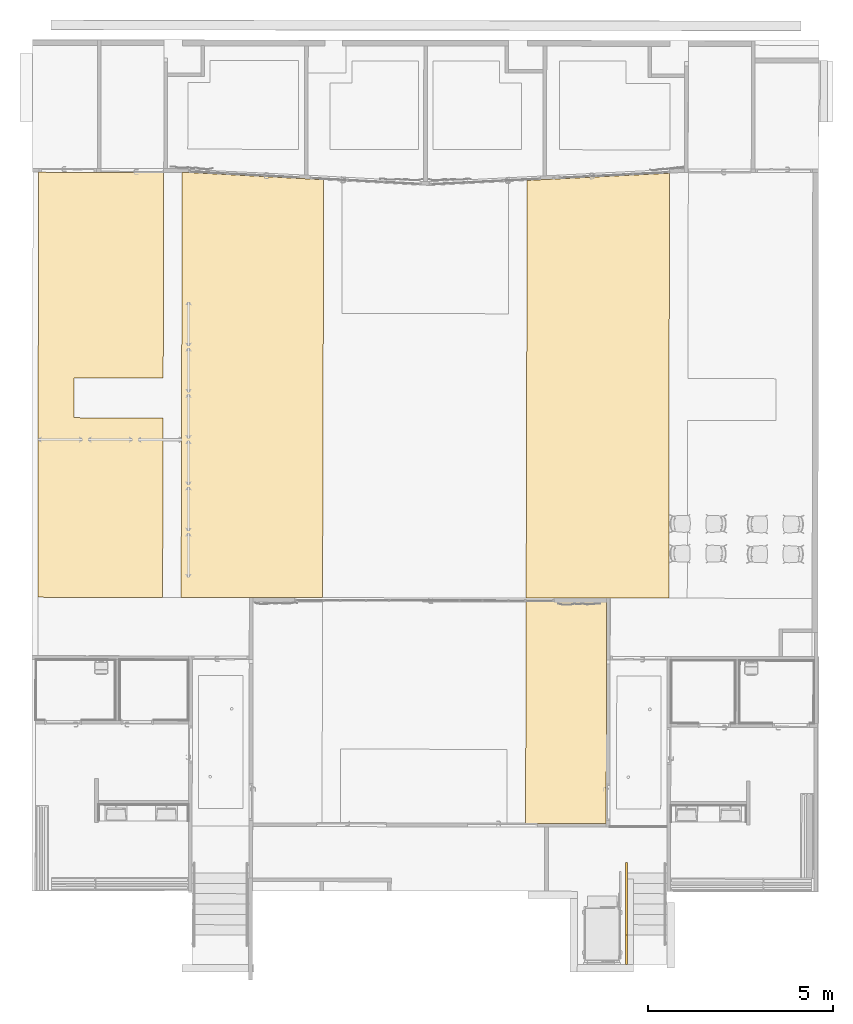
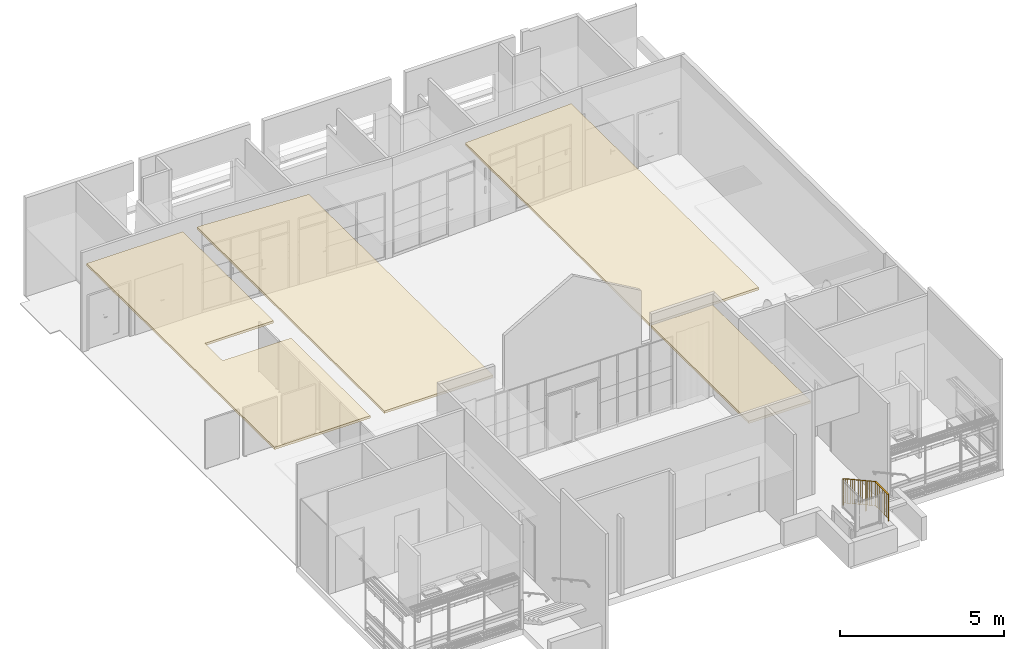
# One storey, part 33 of 43: 4 coverings, 1 railing, 1 element without a shape of its own.
"""IFC2X3 building model written with IfcOpenShell, lengths in metres."""

import ifcopenshell
import ifcopenshell.guid

model = None  # the IFC model being written
_history = None  # IfcOwnerHistory: only IFC2X3 demands one
_inside = {}  # id of a spatial element -> (the spatial element, [elements in it])
_under = {}  # id of a project, library or spatial element -> (it, [spatial elements below it])
_declared = {}  # id of a project -> (the project, [libraries it declares])
_typed = {}  # id of a type object -> (the type object, [elements of that type])
_made_of = {}  # id of a material, layer set ... -> (it, [elements and type objects made of it])


def new_model(schema):
    """Start an empty IFC model of exactly this schema.

    Asked for "IFC4X3", IfcOpenShell would pick the latest addendum, in which some entities
    have other attributes; the version numbers below select the first issue.
    IFC2X3 requires an IfcOwnerHistory on every rooted entity: one is made here for all.
    """
    global model, _history
    if schema == "IFC4X3":
        model = ifcopenshell.file(schema_version=(4, 3, 0, 0))
    else:
        model = ifcopenshell.file(schema=schema)
    _inside.clear()
    _under.clear()
    _declared.clear()
    _typed.clear()
    _made_of.clear()
    _history = None
    if model.schema == "IFC2X3":
        org = make("IfcOrganization", Name="unknown")
        user = make(
            "IfcPersonAndOrganization",
            ThePerson=make("IfcPerson", FamilyName="unknown"),
            TheOrganization=org,
        )
        app = make(
            "IfcApplication",
            ApplicationDeveloper=org,
            Version="unknown",
            ApplicationFullName="unknown",
            ApplicationIdentifier="unknown",
        )
        _history = make(
            "IfcOwnerHistory",
            OwningUser=user,
            OwningApplication=app,
            ChangeAction="ADDED",
            CreationDate=0,
        )
    return model


def make(cls, **values):
    """One entity of the class cls with the attributes given. An attribute that is None is left unset."""
    return model.create_entity(
        cls, **{name: value for name, value in values.items() if value is not None}
    )


def entity(cls, *values):
    """Any entity or typed value of the class cls, its attributes in the order of the schema. None: left unset."""
    e = model.create_entity(cls)
    for i, value in enumerate(values):
        if value is not None:
            e[i] = value
    return e


def rooted(cls, **values):
    """An entity with a GlobalId (a new one), such as an element, a storey or a relation."""
    return make(cls, GlobalId=ifcopenshell.guid.new(), OwnerHistory=_history, **values)


def si_unit(unit_type, name, prefix=None):
    """IfcSIUnit, for example si_unit("LENGTHUNIT", "METRE", prefix="MILLI")."""
    return make("IfcSIUnit", UnitType=unit_type, Prefix=prefix, Name=name)


def converted_unit(unit_type, name, factor, base, dimensions=None, offset=None):
    """IfcConversionBasedUnit, such as the inch: factor (a typed value) times the base unit."""
    return make(
        "IfcConversionBasedUnit"
        if offset is None
        else "IfcConversionBasedUnitWithOffset",
        ConversionOffset=offset,
        Dimensions=None
        if dimensions is None
        else entity("IfcDimensionalExponents", *dimensions),
        UnitType=unit_type,
        Name=name,
        ConversionFactor=make(
            "IfcMeasureWithUnit", ValueComponent=factor, UnitComponent=base
        ),
    )


def derived_unit(unit_type, elements):
    """IfcDerivedUnit: a product of units, each with its exponent."""
    return make(
        "IfcDerivedUnit",
        Elements=[
            make("IfcDerivedUnitElement", Unit=unit, Exponent=power)
            for unit, power in elements
        ],
        UnitType=unit_type,
    )


def assignment(units):
    """IfcUnitAssignment: the units of a project."""
    return None if units is None else make("IfcUnitAssignment", Units=units)


def point(xyz):
    """IfcCartesianPoint."""
    return None if xyz is None else make("IfcCartesianPoint", Coordinates=xyz)


def direction(xyz):
    """IfcDirection."""
    return None if xyz is None else make("IfcDirection", DirectionRatios=xyz)


def frame(location, z_axis=None, x_axis=None):
    """IfcAxis2Placement3D, a coordinate frame: its origin and axes. An axis left out is left unset."""
    return make(
        "IfcAxis2Placement3D",
        Location=point(location),
        Axis=direction(z_axis),
        RefDirection=direction(x_axis),
    )


def origin():
    """The frame at (0, 0, 0) with its axes left unset."""
    return frame((0.0, 0.0, 0.0))


def place(relative_to, where):
    """IfcLocalPlacement: puts the frame where relative to a parent placement (None: the world)."""
    return make(
        "IfcLocalPlacement", PlacementRelTo=relative_to, RelativePlacement=where
    )


def context(
    kind, dimensions, precision=None, world=None, true_north=None, identifier=None
):
    """IfcGeometricRepresentationContext, for example the 3D "Model" context."""
    return make(
        "IfcGeometricRepresentationContext",
        ContextIdentifier=identifier,
        ContextType=kind,
        CoordinateSpaceDimension=dimensions,
        Precision=precision,
        WorldCoordinateSystem=world,
        TrueNorth=true_north,
    )


def subcontext(parent, identifier, kind, view, scale=None):
    """IfcGeometricRepresentationSubContext, for example "Body" below "Model"."""
    return make(
        "IfcGeometricRepresentationSubContext",
        ContextIdentifier=identifier,
        ContextType=kind,
        ParentContext=parent,
        TargetScale=scale,
        TargetView=view,
    )


def project(units=None, contexts=None):
    """IfcProject with its units and contexts."""
    return rooted(
        "IfcProject",
        Name="project",
        RepresentationContexts=contexts,
        UnitsInContext=assignment(units),
    )


def spatial(cls, under=None, at=None, **own):
    """A site, building, storey or space (cls), placed at a placement, below another one or the project."""
    s = rooted(cls, ObjectPlacement=at, **own)
    if under is not None:
        _under.setdefault(under.id(), (under, []))[1].append(s)
    return s


def faces_of(points, faces, orient=None, outer=None):
    """IfcFace entities. A face is a list of loops; a loop is a list of indices into points, from 0.

    orient and outer hold one flag for each loop. By default every Orientation is true, the
    first loop of a face is its IfcFaceOuterBound and the others are IfcFaceBound.
    """
    made = []
    for i, loops in enumerate(faces):
        bounds = []
        for j, loop in enumerate(loops):
            is_outer = j == 0 if outer is None else outer[i][j]
            bounds.append(
                make(
                    "IfcFaceOuterBound" if is_outer else "IfcFaceBound",
                    Bound=make("IfcPolyLoop", Polygon=[points[k] for k in loop]),
                    Orientation=True if orient is None else orient[i][j],
                )
            )
        made.append(make("IfcFace", Bounds=bounds))
    return made


def faceted_brep(points, faces, orient=None, outer=None, voids=None):
    """IfcFacetedBrep: a solid bounded by flat faces; with voids (closed shells), ...WithVoids."""
    shared = [point(p) for p in points]
    hull = make("IfcClosedShell", CfsFaces=faces_of(shared, faces, orient, outer))
    if voids is None:
        return make("IfcFacetedBrep", Outer=hull)
    return make(
        "IfcFacetedBrepWithVoids",
        Outer=hull,
        Voids=[
            make(cls, CfsFaces=faces_of(shared, fs, o, b)) for cls, fs, o, b in voids
        ],
    )


def shape(context_of_items, identifier, shape_type, items):
    """IfcShapeRepresentation: the items that make up one representation, for example the "Body"."""
    return make(
        "IfcShapeRepresentation",
        ContextOfItems=context_of_items,
        RepresentationIdentifier=identifier,
        RepresentationType=shape_type,
        Items=items,
    )


def material(Name=None, Category=None):
    """IfcMaterial."""
    return make("IfcMaterial", Name=Name, Category=Category)


def material_list(materials):
    """IfcMaterialList."""
    return make("IfcMaterialList", Materials=materials)


def layer(
    of_material, thickness, ventilated=None, Name=None, Category=None, Priority=None
):
    """IfcMaterialLayer: one layer of a wall or slab, of a material (None: an air gap)."""
    return make(
        "IfcMaterialLayer",
        Material=of_material,
        LayerThickness=thickness,
        IsVentilated=ventilated,
        Name=Name,
        Category=Category,
        Priority=Priority,
    )


def layer_set(layers, Name=None):
    """IfcMaterialLayerSet."""
    return make("IfcMaterialLayerSet", MaterialLayers=layers, LayerSetName=Name)


def layer_usage(for_layer_set, set_direction, sense, offset, extent=None):
    """IfcMaterialLayerSetUsage: how a layer set lies in its element."""
    return make(
        "IfcMaterialLayerSetUsage",
        ForLayerSet=for_layer_set,
        LayerSetDirection=set_direction,
        DirectionSense=sense,
        OffsetFromReferenceLine=offset,
        ReferenceExtent=extent,
    )


def made_of(thing, what):
    """Note that an element or type object is made of a material, layer set ...; save() writes the relation."""
    if what is not None:
        _made_of.setdefault(what.id(), (what, []))[1].append(thing)
    return thing


def type_object(cls, material=None, **own):
    """A type object (cls), such as IfcWallType, which elements share."""
    return made_of(rooted(cls, **own), material)


def element(
    cls,
    number,
    at=None,
    inside=None,
    cuts=None,
    type_object=None,
    material=None,
    context=None,
    identifier="Body",
    shape_type=None,
    held_by="IfcProductDefinitionShape",
    body=None,
    shapes=None,
    **own,
):
    """One element of the class cls, such as IfcWall. Its Tag is "e" and its number.

    at: its placement. inside: the storey or other place that contains it. cuts: it is an
    opening in that element (IfcRelVoidsElement). A single representation is given by context,
    identifier, shape_type and body (its items); several are given by shapes. held_by: the class
    of the entity that holds the representations. save() writes the other relations.
    """
    e = rooted(cls, Tag="e%d" % number, ObjectPlacement=at, **own)
    if body is not None:
        shapes = [shape(context, identifier, shape_type, body)]
    if shapes is not None:
        e.Representation = make(held_by, Representations=shapes)
    if inside is not None:
        _inside.setdefault(inside.id(), (inside, []))[1].append(e)
    if cuts is not None:
        rooted(
            "IfcRelVoidsElement", RelatingBuildingElement=cuts, RelatedOpeningElement=e
        )
    if type_object is not None:
        _typed.setdefault(type_object.id(), (type_object, []))[1].append(e)
    return made_of(e, material)


def aggregate(whole, parts):
    """IfcRelAggregates: a whole, such as a stair, and the parts it consists of."""
    return rooted("IfcRelAggregates", RelatingObject=whole, RelatedObjects=parts)


def save(model, path):
    """Write the relations noted so far, then the file.

    IfcRelAggregates (storeys below a building ...), IfcRelContainedInSpatialStructure (elements
    in a storey), IfcRelDefinesByType, IfcRelAssociatesMaterial and IfcRelDeclares: one each for
    every whole, place, type object, material and project.
    """
    for whole, parts in _under.values():
        aggregate(whole, parts)
    for where, things in _inside.values():
        rooted(
            "IfcRelContainedInSpatialStructure",
            RelatedElements=things,
            RelatingStructure=where,
        )
    for kind, things in _typed.values():
        rooted("IfcRelDefinesByType", RelatedObjects=things, RelatingType=kind)
    for what, things in _made_of.values():
        rooted("IfcRelAssociatesMaterial", RelatedObjects=things, RelatingMaterial=what)
    for by, libraries in _declared.values():
        rooted("IfcRelDeclares", RelatingContext=by, RelatedDefinitions=libraries)
    model.write(path)


model = new_model("IFC2X3")

# Units and contexts
model_context = context("Model", 3, precision=1e-05, world=origin(), true_north=direction((6.123233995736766e-17, 1.0)))
body_context = subcontext(model_context, "Body", "Model", "MODEL_VIEW")
ifc_project = project(units=[si_unit("LENGTHUNIT", "METRE"), si_unit("AREAUNIT", "SQUARE_METRE"), converted_unit("PLANEANGLEUNIT", "DEGREE", entity("IfcPlaneAngleMeasure", 0.017453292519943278), si_unit("PLANEANGLEUNIT", "RADIAN"), dimensions=[0, 0, 0, 0, 0, 0, 0]), derived_unit("THERMALTRANSMITTANCEUNIT", [(si_unit("MASSUNIT", "GRAM", prefix="KILO"), 1), (si_unit("THERMODYNAMICTEMPERATUREUNIT", "KELVIN"), -1), (si_unit("TIMEUNIT", "SECOND"), -3)])], contexts=[model_context])

# Site, building, storey
site_placement = place(None, frame((1253.6752467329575, 2072.143113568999, 91.49999999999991), z_axis=(0.0, 0.0, 1.0), x_axis=(0.7237211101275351, 0.6900925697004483, 0.0)))
site = spatial("IfcSite", under=ifc_project, at=site_placement, Name="Surface", CompositionType="ELEMENT")
building_placement = place(site_placement, origin())
building = spatial("IfcBuilding", under=site, at=building_placement, CompositionType="ELEMENT")
storey_placement = place(building_placement, frame((0.0, 0.0, -4.629999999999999)))
storey = spatial("IfcBuildingStorey", under=building, at=storey_placement, Name="rez de rue -1.10m", CompositionType="ELEMENT", Elevation=-4.629999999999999)

# Coverings
ifc_material_1 = material(Name="Faux-plafond - Trame 600 x 600")
ifc_layer_1 = layer(ifc_material_1, 0.04)
ifc_material_2 = material(Name="Faux-plafond - Trame 600 x 1200")
ifc_layer_2 = layer(ifc_material_2, 0.05)
ifc_layer_set = layer_set([ifc_layer_1, ifc_layer_2], Name="Plafond composé:Dalles 60x120")
ifc_layer_usage_1 = layer_usage(ifc_layer_set, "AXIS3", "NEGATIVE", 0.09000000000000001)
covering_type = type_object("IfcCoveringType", Name="Plafond composé:Dalles 60x120", PredefinedType="CEILING")
covering_1_placement = place(storey_placement, frame((175.15458091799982, -5.073132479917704, 3.1729727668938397)))
element("IfcCovering", 1, at=covering_1_placement, inside=storey, type_object=covering_type, material=ifc_layer_usage_1, Name="Plafond composé:Dalles 60x120", ObjectType="Plafond composé:Dalles 60x120", PredefinedType="CEILING", context=body_context, shape_type="Brep", body=[
    faceted_brep([(2.79262150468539, 0.0, 0.21093778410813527), (10.745239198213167, 8.315527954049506, 0.09000497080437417), (7.822327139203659, 10.831543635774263, 0.09211820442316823), (0.0, 2.6706990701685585, 0.21092958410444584), (2.79262150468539, 0.0, 0.12093281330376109), (0.0, 2.6706990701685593, 0.12092461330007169), (7.822327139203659, 10.831543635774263, 0.002113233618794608), (10.745239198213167, 8.315527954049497, 0.0)], [[[0, 1, 2, 3]], [[4, 5, 6, 7]], [[3, 2, 6, 5]], [[0, 3, 5, 4]], [[1, 0, 4, 7]], [[2, 1, 7, 6]]]),
])
ifc_layer_usage_2 = layer_usage(ifc_layer_set, "AXIS3", "NEGATIVE", 0.09000000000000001)
covering_2_placement = place(storey_placement, frame((170.9347199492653, -8.31472745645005, 3.2930262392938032)))
element("IfcCovering", 2, at=covering_2_placement, inside=storey, type_object=covering_type, material=ifc_layer_usage_2, Name="Plafond composé:Dalles 60x120", ObjectType="Plafond composé:Dalles 60x120", PredefinedType="CEILING", context=body_context, shape_type="Brep", body=[
    faceted_brep([(0.0, 1.5085199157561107, 0.15378712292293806), (1.5773868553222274, 0.0, 0.15327350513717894), (5.7243149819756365, 4.336243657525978, 0.09000500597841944), (4.153571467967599, 5.841833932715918, 0.09049092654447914), (0.0, 1.5085199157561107, 0.06378211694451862), (4.153571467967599, 5.841833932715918, 0.0004859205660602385), (5.7243149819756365, 4.336243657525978, 0.0), (1.5773868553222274, 0.0, 0.06326849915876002)], [[[0, 1, 2, 3]], [[4, 5, 6, 7]], [[1, 0, 4, 7]], [[2, 1, 7, 6]], [[3, 2, 6, 5]], [[0, 3, 5, 4]]]),
])
ifc_layer_usage_3 = layer_usage(ifc_layer_set, "AXIS3", "NEGATIVE", 0.09000000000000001)
covering_3_placement = place(storey_placement, frame((168.4045681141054, 1.406314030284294, 3.1730790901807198)))
element("IfcCovering", 3, at=covering_3_placement, inside=storey, type_object=covering_type, material=ifc_layer_usage_3, Name="Plafond composé:Dalles 60x120", ObjectType="Plafond composé:Dalles 60x120", PredefinedType="CEILING", context=body_context, shape_type="Brep", body=[
    faceted_brep([(0.0, 2.6476510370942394, 0.21082431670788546), (2.768521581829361, 0.0, 0.21083243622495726), (10.59766988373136, 8.167960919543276, 0.09202820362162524), (8.083882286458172, 10.837539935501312, 0.09000531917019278), (7.961944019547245, 10.95415451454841, 0.09000496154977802), (0.0, 2.6476510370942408, 0.12081935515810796), (7.961944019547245, 10.954154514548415, 0.0), (8.083882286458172, 10.837539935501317, 3.5762041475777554e-07), (10.59766988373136, 8.167960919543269, 0.0020232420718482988), (2.768521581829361, 0.0, 0.12082747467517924)], [[[0, 1, 2, 3, 4]], [[5, 6, 7, 8, 9]], [[2, 1, 9, 8]], [[1, 0, 5, 9]], [[0, 4, 6, 5]], [[3, 2, 8, 7]], [[4, 3, 7, 6]]]),
])
ifc_layer_usage_4 = layer_usage(ifc_layer_set, "AXIS3", "NEGATIVE", 0.09000000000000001)
covering_4_placement = place(storey_placement, frame((165.60264233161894, 4.399542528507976, 3.173898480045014)))
element("IfcCovering", 4, at=covering_4_placement, inside=storey, type_object=covering_type, material=ifc_layer_usage_4, Name="Plafond composé:Dalles 60x120", ObjectType="Plafond composé:Dalles 60x120", PredefinedType="CEILING", context=body_context, shape_type="Brep", body=[
    faceted_brep([(6.551677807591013, 4.289017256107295, 0.1480506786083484), (10.402516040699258, 8.30650347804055, 0.09001203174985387), (7.9522959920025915, 10.649749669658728, 0.09000489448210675), (0.0, 2.3340193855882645, 0.2100048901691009), (2.4405720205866, 0.0, 0.21001199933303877), (5.804627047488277, 3.5096371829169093, 0.15930999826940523), (4.059168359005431, 5.178188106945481, 0.1593102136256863), (4.805168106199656, 5.958572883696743, 0.1480508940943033), (6.551677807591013, 4.289017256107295, 0.05804578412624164), (4.805168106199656, 5.958572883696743, 0.0580459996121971), (4.059168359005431, 5.178188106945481, 0.06930531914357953), (5.804627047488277, 3.509637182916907, 0.06930510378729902), (2.4405720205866, 0.0, 0.12000710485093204), (0.0, 2.3340193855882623, 0.1199999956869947), (7.9522959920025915, 10.649749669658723, 0.0), (10.402516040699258, 8.30650347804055, 7.137267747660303e-06)], [[[0, 1, 2, 3, 4, 5, 6, 7]], [[8, 9, 10, 11, 12, 13, 14, 15]], [[0, 7, 9, 8]], [[7, 6, 10, 9]], [[6, 5, 11, 10]], [[5, 4, 12, 11]], [[4, 3, 13, 12]], [[3, 2, 14, 13]], [[2, 1, 15, 14]], [[1, 0, 8, 15]]]),
])

# Stair, railing
type_product = type_object("IfcTypeProduct", Name="Escalier coulé sur place:Monobloc")
stair_placement = place(storey_placement, origin())
stair = element("IfcStair", 5, at=stair_placement, inside=storey, type_object=type_product, Name="Escalier coulé sur place:Escalier", ObjectType="Escalier coulé sur place:Monobloc", ShapeType="STRAIGHT_RUN_STAIR")
ifc_material_3 = material(Name="<Unnamed>")
ifc_material_4 = material(Name="Peinture - Grise")
ifc_material_5 = material(Name="OMD_RAL1032")
ifc_material_list = material_list([ifc_material_3, ifc_material_4, ifc_material_5])
railing_type = type_object("IfcRailingType", Name="Garde-corps:OMD_Garde Corps Régulier 1m", PredefinedType="NOTDEFINED")
railing_placement = place(stair_placement, frame((170.25643629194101, -11.469605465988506, -0.00015273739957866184)))
railing = element("IfcRailing", 6, at=railing_placement, type_object=railing_type, material=ifc_material_list, Name="Garde-corps:OMD_Garde Corps Régulier 1m", ObjectType="Garde-corps:OMD_Garde Corps Régulier 1m", PredefinedType="NOTDEFINED", context=body_context, shape_type="Brep", body=[
    faceted_brep([(0.09086220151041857, 0.09753474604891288, 2.070152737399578), (0.09086220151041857, 0.09753474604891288, 1.180152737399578), (0.09448080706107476, 0.09408428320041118, 1.180152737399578), (0.09448080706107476, 0.09408428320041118, 2.070152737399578), (0.10121359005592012, 0.10839056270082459, 2.070152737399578), (0.1048321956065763, 0.10494009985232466, 2.070152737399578), (0.1048321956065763, 0.10494009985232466, 1.180152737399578), (0.10121359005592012, 0.10839056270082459, 1.180152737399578)], [[[0, 1, 2, 3]], [[4, 5, 6, 7]], [[1, 0, 4, 7]], [[2, 1, 7, 6]], [[3, 2, 6, 5]], [[0, 3, 5, 4]]]),
    faceted_brep([(0.17009442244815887, 0.18062799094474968, 2.070152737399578), (0.17009442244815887, 0.18062799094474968, 1.180152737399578), (0.17371302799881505, 0.17717752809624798, 1.180152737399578), (0.17371302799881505, 0.17717752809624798, 2.070152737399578), (0.18044581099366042, 0.19148380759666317, 2.070152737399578), (0.18406441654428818, 0.18803334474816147, 2.070152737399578), (0.18406441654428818, 0.18803334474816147, 1.180152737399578), (0.18044581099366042, 0.19148380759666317, 1.180152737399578)], [[[0, 1, 2, 3]], [[4, 5, 6, 7]], [[1, 0, 4, 7]], [[2, 1, 7, 6]], [[3, 2, 6, 5]], [[0, 3, 5, 4]]]),
    faceted_brep([(0.24932664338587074, 0.26372123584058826, 2.070152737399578), (0.24932664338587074, 0.26372123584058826, 1.180152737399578), (0.2529452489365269, 0.26027077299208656, 1.180152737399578), (0.2529452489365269, 0.26027077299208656, 2.070152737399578), (0.2596780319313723, 0.27457705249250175, 2.070152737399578), (0.2632966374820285, 0.27112658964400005, 2.070152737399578), (0.2632966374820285, 0.27112658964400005, 1.180152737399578), (0.2596780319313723, 0.27457705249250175, 1.180152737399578)], [[[0, 1, 2, 3]], [[4, 5, 6, 7]], [[1, 0, 4, 7]], [[2, 1, 7, 6]], [[3, 2, 6, 5]], [[0, 3, 5, 4]]]),
    faceted_brep([(0.32855886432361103, 0.34681448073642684, 2.070152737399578), (0.32855886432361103, 0.34681448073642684, 1.180152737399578), (0.3321774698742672, 0.34336401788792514, 1.180152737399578), (0.3321774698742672, 0.34336401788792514, 2.070152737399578), (0.3389102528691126, 0.35767029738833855, 2.070152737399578), (0.34252885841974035, 0.35421983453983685, 2.070152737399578), (0.34252885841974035, 0.35421983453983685, 1.180152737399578), (0.3389102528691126, 0.35767029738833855, 1.180152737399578)], [[[0, 1, 2, 3]], [[4, 5, 6, 7]], [[1, 0, 4, 7]], [[2, 1, 7, 6]], [[3, 2, 6, 5]], [[0, 3, 5, 4]]]),
    faceted_brep([(0.4077910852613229, 0.4299077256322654, 2.070152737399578), (0.4077910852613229, 0.4299077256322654, 1.180152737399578), (0.4114096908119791, 0.4264572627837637, 1.180152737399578), (0.4114096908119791, 0.4264572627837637, 2.070152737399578), (0.41814247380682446, 0.4407635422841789, 2.070152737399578), (0.42176107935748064, 0.4373130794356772, 2.070152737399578), (0.42176107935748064, 0.4373130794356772, 1.180152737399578), (0.41814247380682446, 0.4407635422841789, 1.180152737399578)], [[[0, 1, 2, 3]], [[4, 5, 6, 7]], [[1, 0, 4, 7]], [[2, 1, 7, 6]], [[3, 2, 6, 5]], [[0, 3, 5, 4]]]),
    faceted_brep([(0.4870233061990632, 0.5130009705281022, 2.070152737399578), (0.4870233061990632, 0.5130009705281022, 1.180152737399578), (0.4906419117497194, 0.5095505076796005, 1.180152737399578), (0.4906419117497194, 0.5095505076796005, 2.070152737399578), (0.4973746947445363, 0.5238567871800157, 2.070152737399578), (0.5009933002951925, 0.520406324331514, 2.070152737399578), (0.5009933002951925, 0.520406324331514, 1.180152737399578), (0.4973746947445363, 0.5238567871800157, 1.180152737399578)], [[[0, 1, 2, 3]], [[4, 5, 6, 7]], [[1, 0, 4, 7]], [[2, 1, 7, 6]], [[3, 2, 6, 5]], [[0, 3, 5, 4]]]),
    faceted_brep([(0.5662555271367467, 0.5960942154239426, 2.065500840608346), (0.5662555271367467, 0.5960942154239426, 1.1755008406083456), (0.5698741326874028, 0.5926437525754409, 1.1755008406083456), (0.5698741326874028, 0.5926437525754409, 2.065500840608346), (0.5766069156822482, 0.6069500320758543, 2.065500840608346), (0.5802255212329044, 0.6034995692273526, 2.065500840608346), (0.5802255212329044, 0.6034995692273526, 1.1755008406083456), (0.5766069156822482, 0.6069500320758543, 1.1755008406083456)], [[[0, 1, 2, 3]], [[4, 5, 6, 7]], [[1, 0, 4, 7]], [[2, 1, 7, 6]], [[3, 2, 6, 5]], [[0, 3, 5, 4]]]),
    faceted_brep([(0.6454877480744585, 0.6791874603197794, 2.0022360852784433), (0.6454877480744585, 0.6791874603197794, 1.1122360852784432), (0.6491063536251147, 0.6757369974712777, 1.1122360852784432), (0.6491063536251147, 0.6757369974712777, 2.0022360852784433), (0.6558391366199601, 0.6900432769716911, 2.0022360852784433), (0.6594577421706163, 0.6865928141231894, 2.0022360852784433), (0.6594577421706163, 0.6865928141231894, 1.1122360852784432), (0.6558391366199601, 0.6900432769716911, 1.1122360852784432)], [[[0, 1, 2, 3]], [[4, 5, 6, 7]], [[1, 0, 4, 7]], [[2, 1, 7, 6]], [[3, 2, 6, 5]], [[0, 3, 5, 4]]]),
    faceted_brep([(0.7247199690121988, 0.762280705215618, 1.9389713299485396), (0.7247199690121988, 0.762280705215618, 1.048971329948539), (0.728338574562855, 0.7588302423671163, 1.048971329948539), (0.728338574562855, 0.7588302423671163, 1.9389713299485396), (0.7350713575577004, 0.7731365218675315, 1.9389713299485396), (0.7386899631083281, 0.7696860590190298, 1.9389713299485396), (0.7386899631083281, 0.7696860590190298, 1.048971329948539), (0.7350713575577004, 0.7731365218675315, 1.048971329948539)], [[[0, 1, 2, 3]], [[4, 5, 6, 7]], [[1, 0, 4, 7]], [[2, 1, 7, 6]], [[3, 2, 6, 5]], [[0, 3, 5, 4]]]),
    faceted_brep([(0.8039521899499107, 0.8453739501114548, 1.8757065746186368), (0.8039521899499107, 0.8453739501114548, 0.9857065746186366), (0.8075707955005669, 0.8419234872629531, 0.9857065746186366), (0.8075707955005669, 0.8419234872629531, 1.8757065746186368), (0.8143035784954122, 0.8562297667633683, 1.8757065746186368), (0.8179221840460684, 0.8527793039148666, 1.8757065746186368), (0.8179221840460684, 0.8527793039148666, 0.9857065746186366), (0.8143035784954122, 0.8562297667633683, 0.9857065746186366)], [[[0, 1, 2, 3]], [[4, 5, 6, 7]], [[1, 0, 4, 7]], [[2, 1, 7, 6]], [[3, 2, 6, 5]], [[0, 3, 5, 4]]]),
    faceted_brep([(0.883184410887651, 0.9284671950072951, 1.8124418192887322), (0.883184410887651, 0.9284671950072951, 0.922441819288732), (0.8868030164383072, 0.9250167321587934, 0.922441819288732), (0.8868030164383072, 0.9250167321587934, 1.8124418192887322), (0.8935357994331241, 0.9393230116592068, 1.8124418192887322), (0.8971544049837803, 0.9358725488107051, 1.8124418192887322), (0.8971544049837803, 0.9358725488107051, 0.922441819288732), (0.8935357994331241, 0.9393230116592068, 0.922441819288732)], [[[0, 1, 2, 3]], [[4, 5, 6, 7]], [[1, 0, 4, 7]], [[2, 1, 7, 6]], [[3, 2, 6, 5]], [[0, 3, 5, 4]]]),
    faceted_brep([(0.9797354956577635, 0.9971189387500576, 1.7491770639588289), (0.9880166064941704, 1.0058035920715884, 1.7491770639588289), (0.9590677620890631, 1.0334072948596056, 1.7491770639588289), (0.9507866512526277, 1.0247226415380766, 1.7491770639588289), (0.9797354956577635, 0.9971189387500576, 0.6172955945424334), (0.9507866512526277, 1.0247226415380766, 0.6172955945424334), (0.9590677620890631, 1.0334072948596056, 0.6172955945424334), (0.9880166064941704, 1.0058035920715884, 0.6172955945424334)], [[[0, 1, 2, 3]], [[4, 5, 6, 7]], [[1, 0, 4, 7]], [[2, 1, 7, 6]], [[3, 2, 6, 5]], [[0, 3, 5, 4]]]),
    faceted_brep([(1.0416488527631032, 1.0946536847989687, 1.685912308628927), (1.0416488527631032, 1.0946536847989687, 0.7959123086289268), (1.0452674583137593, 1.091203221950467, 0.7959123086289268), (1.0452674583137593, 1.091203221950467, 1.685912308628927), (1.0520002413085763, 1.1055095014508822, 1.685912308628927), (1.0556188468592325, 1.1020590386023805, 1.685912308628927), (1.0556188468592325, 1.1020590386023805, 0.7959123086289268), (1.0520002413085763, 1.1055095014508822, 0.7959123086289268)], [[[0, 1, 2, 3]], [[4, 5, 6, 7]], [[1, 0, 4, 7]], [[2, 1, 7, 6]], [[3, 2, 6, 5]], [[0, 3, 5, 4]]]),
    faceted_brep([(1.120881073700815, 1.1777469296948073, 1.6226475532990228), (1.120881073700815, 1.1777469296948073, 0.7326475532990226), (1.1244996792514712, 1.1742964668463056, 0.7326475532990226), (1.1244996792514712, 1.1742964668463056, 1.6226475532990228), (1.1312324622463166, 1.1886027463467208, 1.6226475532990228), (1.1348510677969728, 1.185152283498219, 1.6226475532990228), (1.1348510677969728, 1.185152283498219, 0.7326475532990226), (1.1312324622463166, 1.1886027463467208, 0.7326475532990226)], [[[0, 1, 2, 3]], [[4, 5, 6, 7]], [[1, 0, 4, 7]], [[2, 1, 7, 6]], [[3, 2, 6, 5]], [[0, 3, 5, 4]]]),
    faceted_brep([(1.2001132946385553, 1.260840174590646, 1.5593827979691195), (1.2001132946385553, 1.260840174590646, 0.6693827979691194), (1.2037319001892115, 1.2573897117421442, 0.6693827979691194), (1.2037319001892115, 1.2573897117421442, 1.5593827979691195), (1.2104646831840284, 1.2716959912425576, 1.5593827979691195), (1.2140832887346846, 1.268245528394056, 1.5593827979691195), (1.2140832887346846, 1.268245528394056, 0.6693827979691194), (1.2104646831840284, 1.2716959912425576, 0.6693827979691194)], [[[0, 1, 2, 3]], [[4, 5, 6, 7]], [[1, 0, 4, 7]], [[2, 1, 7, 6]], [[3, 2, 6, 5]], [[0, 3, 5, 4]]]),
    faceted_brep([(1.2793455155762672, 1.3439334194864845, 1.4961180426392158), (1.2793455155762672, 1.3439334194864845, 0.6061180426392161), (1.2829641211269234, 1.3404829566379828, 0.6061180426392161), (1.2829641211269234, 1.3404829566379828, 1.4961180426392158), (1.2896969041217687, 1.354789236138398, 1.4961180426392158), (1.293315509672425, 1.3513387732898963, 1.4961180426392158), (1.293315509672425, 1.3513387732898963, 0.6061180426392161), (1.2896969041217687, 1.354789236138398, 0.6061180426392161)], [[[0, 1, 2, 3]], [[4, 5, 6, 7]], [[1, 0, 4, 7]], [[2, 1, 7, 6]], [[3, 2, 6, 5]], [[0, 3, 5, 4]]]),
    faceted_brep([(1.3585777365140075, 1.4270266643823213, 1.432853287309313), (1.3585777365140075, 1.4270266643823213, 0.5428532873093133), (1.3621963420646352, 1.4235762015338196, 0.5428532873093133), (1.3621963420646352, 1.4235762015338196, 1.432853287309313), (1.3689291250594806, 1.4378824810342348, 1.432853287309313), (1.3725477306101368, 1.434432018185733, 1.432853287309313), (1.3725477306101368, 1.434432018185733, 0.5428532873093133), (1.3689291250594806, 1.4378824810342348, 0.5428532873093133)], [[[0, 1, 2, 3]], [[4, 5, 6, 7]], [[1, 0, 4, 7]], [[2, 1, 7, 6]], [[3, 2, 6, 5]], [[0, 3, 5, 4]]]),
    faceted_brep([(1.4378099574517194, 1.5101199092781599, 1.3695885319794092), (1.4378099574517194, 1.5101199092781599, 0.47958853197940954), (1.4414285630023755, 1.50666944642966, 0.47958853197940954), (1.4414285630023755, 1.50666944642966, 1.3695885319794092), (1.448161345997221, 1.5209757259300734, 1.3695885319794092), (1.451779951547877, 1.5175252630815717, 1.3695885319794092), (1.451779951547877, 1.5175252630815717, 0.47958853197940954), (1.448161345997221, 1.5209757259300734, 0.47958853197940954)], [[[0, 1, 2, 3]], [[4, 5, 6, 7]], [[1, 0, 4, 7]], [[2, 1, 7, 6]], [[3, 2, 6, 5]], [[0, 3, 5, 4]]]),
    faceted_brep([(1.5170421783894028, 1.5932131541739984, 1.3063237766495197), (1.5170421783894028, 1.5932131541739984, 0.41632377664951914), (1.520660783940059, 1.5897626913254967, 0.41632377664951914), (1.520660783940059, 1.5897626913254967, 1.3063237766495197), (1.5273935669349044, 1.6040689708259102, 1.3063237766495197), (1.5310121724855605, 1.6006185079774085, 1.3063237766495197), (1.5310121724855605, 1.6006185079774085, 0.41632377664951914), (1.5273935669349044, 1.6040689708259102, 0.41632377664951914)], [[[0, 1, 2, 3]], [[4, 5, 6, 7]], [[1, 0, 4, 7]], [[2, 1, 7, 6]], [[3, 2, 6, 5]], [[0, 3, 5, 4]]]),
    faceted_brep([(1.596274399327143, 1.676306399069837, 1.2430590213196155), (1.596274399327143, 1.676306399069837, 0.3530590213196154), (1.5998930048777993, 1.6728559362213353, 0.3530590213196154), (1.5998930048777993, 1.6728559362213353, 1.2430590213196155), (1.6066257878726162, 1.6871622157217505, 1.2430590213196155), (1.6102443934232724, 1.6837117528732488, 1.2430590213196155), (1.6102443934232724, 1.6837117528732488, 0.3530590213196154), (1.6066257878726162, 1.6871622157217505, 0.3530590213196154)], [[[0, 1, 2, 3]], [[4, 5, 6, 7]], [[1, 0, 4, 7]], [[2, 1, 7, 6]], [[3, 2, 6, 5]], [[0, 3, 5, 4]]]),
    faceted_brep([(1.675506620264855, 1.7593996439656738, 1.1797942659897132), (1.675506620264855, 1.7593996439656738, 0.2897942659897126), (1.6791252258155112, 1.7559491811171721, 0.2897942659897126), (1.6791252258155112, 1.7559491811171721, 1.1797942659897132), (1.6858580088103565, 1.7702554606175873, 1.1797942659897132), (1.6894766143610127, 1.7668049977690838, 1.1797942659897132), (1.6894766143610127, 1.7668049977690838, 0.2897942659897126), (1.6858580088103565, 1.7702554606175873, 0.2897942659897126)], [[[0, 1, 2, 3]], [[4, 5, 6, 7]], [[1, 0, 4, 7]], [[2, 1, 7, 6]], [[3, 2, 6, 5]], [[0, 3, 5, 4]]]),
    faceted_brep([(1.7547388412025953, 1.8424928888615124, 1.116529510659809), (1.7547388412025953, 1.8424928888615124, 0.22652951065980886), (1.758357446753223, 1.839042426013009, 0.22652951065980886), (1.758357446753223, 1.839042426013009, 1.116529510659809), (1.7650902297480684, 1.853348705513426, 1.116529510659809), (1.7687088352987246, 1.8498982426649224, 1.116529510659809), (1.7687088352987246, 1.8498982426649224, 0.22652951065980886), (1.7650902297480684, 1.853348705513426, 0.22652951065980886)], [[[0, 1, 2, 3]], [[4, 5, 6, 7]], [[1, 0, 4, 7]], [[2, 1, 7, 6]], [[3, 2, 6, 5]], [[0, 3, 5, 4]]]),
    faceted_brep([(1.8339710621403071, 1.925586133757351, 1.0532647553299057), (1.8339710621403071, 1.925586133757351, 0.16326475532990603), (1.8375896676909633, 1.9221356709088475, 0.16326475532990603), (1.8375896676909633, 1.9221356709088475, 1.0532647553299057), (1.8443224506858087, 1.9364419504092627, 1.0532647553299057), (1.8479410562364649, 1.932991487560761, 1.0532647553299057), (1.8479410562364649, 1.932991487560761, 0.16326475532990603), (1.8443224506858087, 1.9364419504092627, 0.16326475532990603)], [[[0, 1, 2, 3]], [[4, 5, 6, 7]], [[1, 0, 4, 7]], [[2, 1, 7, 6]], [[3, 2, 6, 5]], [[0, 3, 5, 4]]]),
    faceted_brep([(0.028948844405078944, 0.0, 2.0701527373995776), (0.03722995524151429, 0.008684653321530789, 2.0701527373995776), (0.008281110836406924, 0.03628835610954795, 2.0701527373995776), (0.0, 0.027603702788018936, 2.0701527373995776), (0.028948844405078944, 0.0, 1.0801527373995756), (0.0, 0.027603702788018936, 1.0801527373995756), (0.008281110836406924, 0.03628835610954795, 1.0801527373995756), (0.03722995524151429, 0.008684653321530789, 1.0801527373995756)], [[[0, 1, 2, 3]], [[4, 5, 6, 7]], [[1, 0, 4, 7]], [[2, 1, 7, 6]], [[3, 2, 6, 5]], [[0, 3, 5, 4]]]),
    faceted_brep([(1.9305221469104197, 1.994237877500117, 0.990000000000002), (1.9388032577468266, 2.002922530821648, 0.990000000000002), (1.9098544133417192, 2.030526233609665, 0.990000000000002), (1.9015733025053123, 2.021841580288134, 0.990000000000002), (1.9305221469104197, 1.994237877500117, 0.0), (1.9015733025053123, 2.021841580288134, 0.0), (1.9098544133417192, 2.030526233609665, 0.0), (1.9388032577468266, 2.002922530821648, 0.0)], [[[0, 1, 2, 3]], [[4, 5, 6, 7]], [[1, 0, 4, 7]], [[2, 1, 7, 6]], [[3, 2, 6, 5]], [[0, 3, 5, 4]]]),
    faceted_brep([(1.9020952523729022, 2.0296343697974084, 1.0), (1.9382813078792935, 1.9951297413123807, 1.0), (1.9382813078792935, 1.9951297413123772, 0.9885823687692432), (1.9020952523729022, 2.029634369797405, 0.988582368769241), (0.5493215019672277, 0.6109393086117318, 2.0801527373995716), (0.585507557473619, 0.5764346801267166, 2.080152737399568), (0.5837321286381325, 0.5745727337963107, 2.070152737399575), (0.5475460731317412, 0.6090773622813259, 2.070152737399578), (0.0005219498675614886, 0.03539649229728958, 2.0801527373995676), (0.0005219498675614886, 0.03539649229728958, 2.070152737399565), (0.0367080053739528, 0.0008918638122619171, 2.0701527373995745), (0.0367080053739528, 0.0008918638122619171, 2.080152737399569)], [[[0, 1, 2, 3]], [[1, 0, 4, 5]], [[2, 1, 5, 6]], [[3, 2, 6, 7]], [[0, 3, 7, 4]], [[8, 9, 10, 11]], [[5, 4, 8, 11]], [[6, 5, 11, 10]], [[7, 6, 10, 9]], [[4, 7, 9, 8]]]),
    faceted_brep([(1.9165696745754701, 2.015832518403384, 0.10000000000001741), (1.923806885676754, 2.008931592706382, 0.10000000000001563), (1.9238068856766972, 2.0089315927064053, 0.08858236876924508), (1.9165696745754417, 2.015832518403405, 0.08858236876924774), (0.5637959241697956, 0.5971374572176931, 1.1801527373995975), (0.5710331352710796, 0.5902365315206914, 1.1801527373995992), (0.5692577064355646, 0.5883745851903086, 1.1701527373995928), (0.5620204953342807, 0.5952755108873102, 1.1701527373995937), (0.01499637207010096, 0.021594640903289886, 1.1801527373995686), (0.014996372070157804, 0.021594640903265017, 1.1701527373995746), (0.02223358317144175, 0.014693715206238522, 1.1701527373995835), (0.02223358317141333, 0.014693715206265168, 1.180152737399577)], [[[0, 1, 2, 3]], [[1, 0, 4, 5]], [[2, 1, 5, 6]], [[3, 2, 6, 7]], [[0, 3, 7, 4]], [[8, 9, 10, 11]], [[5, 4, 8, 11]], [[6, 5, 11, 10]], [[7, 6, 10, 9]], [[4, 7, 9, 8]]]),
])
aggregate(stair, [railing])

save(model, "model.ifc")
